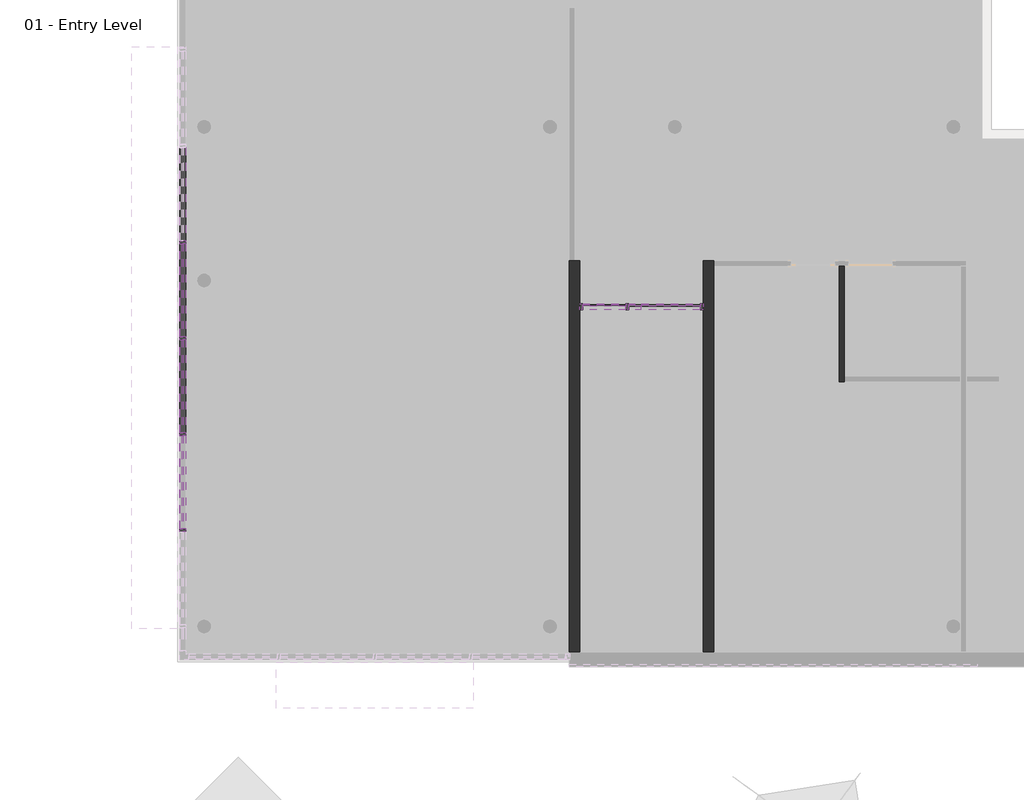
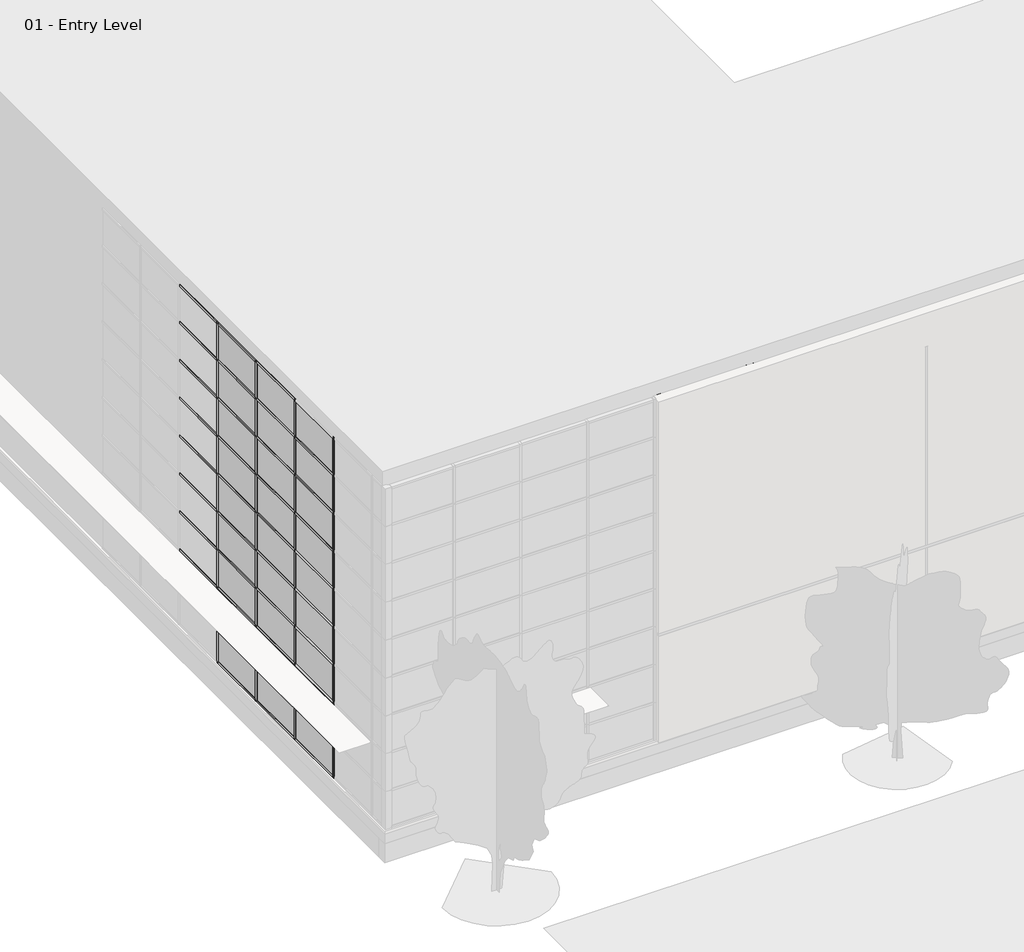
# One storey, part 7 of 35: 87 members, 31 plates, 3 walls, 1 door.
"""IFC4 building model written with IfcOpenShell, lengths in millimetres."""

from ifc_helpers import new_model, si_unit, origin, place, context, project, spatial, faceted_brep, transform, mapped, element, save
from components import curtain_wall_sgl_glass_curtain_wall_sgl_glass_c2d4b377, member_2b49869a, member_391b434c, member_9e90ae50, member_6186cc23, member_5d67b9fc, member_c327c56d, member_a50b3cda, member_410c6227, member_73c23c35, member_59c53a79, member_c46932f7, member_40e8ea34, member_f5b3432e, member_5f93677e, member_63d49946, system_panel_glazed_1b9d6098, system_panel_glazed_70da479d, system_panel_glazed_8dc8626f, system_panel_glazed_8d3e4aee, system_panel_glazed_e3ca75ca, system_panel_glazed_62768381, system_panel_solid_b376696c, system_panel_solid_77e8b053

model = new_model("IFC4")

# Units and contexts
model_context = context("Model", 3, world=origin())
ifc_project = project(units=[si_unit("LENGTHUNIT", "METRE", prefix="MILLI")], contexts=[model_context])

# Site, building, storey
site = spatial("IfcSite", under=ifc_project)
building = spatial("IfcBuilding", under=site)
storey = spatial("IfcBuildingStorey", under=building, Name="01 - Entry Level", Elevation=0.0)

# Door
placement = place(None, origin())
curtain_wall_sgl_glass_curtain_wall_sgl_glass_shape = curtain_wall_sgl_glass_curtain_wall_sgl_glass_c2d4b377(model_context)
element("IfcDoor", 1, ObjectType="Curtain Wall Sgl Glass : Curtain Wall Sgl Glass", at=placement, inside=storey, context=model_context, shape_type="MappedRepresentation", body=[
    mapped(curtain_wall_sgl_glass_curtain_wall_sgl_glass_shape, transform((9097.2957476, 7356.4, 0.0), x_axis=(-1.0, 0.0, 0.0), y_axis=(0.0, -1.0, 0.0), z_axis=(0.0, 0.0, 1.0))),
])

# Members
member_shape = member_2b49869a(model_context)
element("IfcMember", 2, ObjectType="Rectangular Mullion : 2.5\" x 5\" rectangular", at=placement, inside=storey, context=model_context, shape_type="MappedRepresentation", body=[
    mapped(member_shape, transform((178.7207476, 8728.0, 9753.6), x_axis=(0.0, -1.0, 0.0), y_axis=(-1.0, 0.0, 0.0), z_axis=(0.0, 0.0, -1.0))),
])
element("IfcMember", 3, ObjectType="Rectangular Mullion : 2.5\" x 5\" rectangular", at=placement, inside=storey, context=model_context, shape_type="MappedRepresentation", body=[
    mapped(member_shape, transform((178.7207476, 6696.0, 9753.6), x_axis=(0.0, -1.0, 0.0), y_axis=(-1.0, 0.0, 0.0), z_axis=(0.0, 0.0, -1.0))),
])
element("IfcMember", 4, ObjectType="Rectangular Mullion : 2.5\" x 5\" rectangular", at=placement, inside=storey, context=model_context, shape_type="MappedRepresentation", body=[
    mapped(member_shape, transform((178.7207476, 4664.0, 9753.6), x_axis=(0.0, -1.0, 0.0), y_axis=(-1.0, 0.0, 0.0), z_axis=(0.0, 0.0, -1.0))),
])
element("IfcMember", 5, ObjectType="Rectangular Mullion : 2.5\" x 5\" rectangular", at=placement, inside=storey, context=model_context, shape_type="MappedRepresentation", body=[
    mapped(member_shape, transform((178.7207476, 2632.0, 9753.6), x_axis=(0.0, -1.0, 0.0), y_axis=(-1.0, 0.0, 0.0), z_axis=(0.0, 0.0, -1.0))),
])
member_2_shape = member_391b434c(model_context)
element("IfcMember", 6, ObjectType="Rectangular Mullion : 2.5\" x 5\" rectangular", at=placement, inside=storey, context=model_context, shape_type="MappedRepresentation", body=[
    mapped(member_2_shape, transform((178.7207476, 8759.75, 10972.8), x_axis=(0.0, 0.0, 1.0), y_axis=(-1.0, 0.0, 0.0), z_axis=(0.0, -1.0, 0.0))),
])
element("IfcMember", 7, ObjectType="Rectangular Mullion : 2.5\" x 5\" rectangular", at=placement, inside=storey, context=model_context, shape_type="MappedRepresentation", body=[
    mapped(member_2_shape, transform((178.7207476, 6727.75, 10972.8), x_axis=(0.0, 0.0, 1.0), y_axis=(-1.0, 0.0, 0.0), z_axis=(0.0, -1.0, 0.0))),
])
element("IfcMember", 8, ObjectType="Rectangular Mullion : 2.5\" x 5\" rectangular", at=placement, inside=storey, context=model_context, shape_type="MappedRepresentation", body=[
    mapped(member_2_shape, transform((178.7207476, 4695.75, 10972.8), x_axis=(0.0, 0.0, 1.0), y_axis=(-1.0, 0.0, 0.0), z_axis=(0.0, -1.0, 0.0))),
])
element("IfcMember", 9, ObjectType="Rectangular Mullion : 2.5\" x 5\" rectangular", at=placement, inside=storey, context=model_context, shape_type="MappedRepresentation", body=[
    mapped(member_2_shape, transform((178.7207476, 8696.25, 0.0), x_axis=(0.0, 0.0, -1.0), y_axis=(-1.0, 0.0, 0.0), z_axis=(0.0, 1.0, 0.0))),
])
element("IfcMember", 10, ObjectType="Rectangular Mullion : 2.5\" x 5\" rectangular", at=placement, inside=storey, context=model_context, shape_type="MappedRepresentation", body=[
    mapped(member_2_shape, transform((178.7207476, 6664.25, 0.0), x_axis=(0.0, 0.0, -1.0), y_axis=(-1.0, 0.0, 0.0), z_axis=(0.0, 1.0, 0.0))),
])
element("IfcMember", 11, ObjectType="Rectangular Mullion : 2.5\" x 5\" rectangular", at=placement, inside=storey, context=model_context, shape_type="MappedRepresentation", body=[
    mapped(member_2_shape, transform((178.7207476, 4632.25, 0.0), x_axis=(0.0, 0.0, -1.0), y_axis=(-1.0, 0.0, 0.0), z_axis=(0.0, 1.0, 0.0))),
])
member_3_shape = member_9e90ae50(model_context)
element("IfcMember", 12, ObjectType="Rectangular Mullion : 2.5\" x 5\" rectangular", at=placement, inside=storey, context=model_context, shape_type="MappedRepresentation", body=[
    mapped(member_3_shape, transform((178.7207476, 8759.75, 1219.2), x_axis=(0.0, 0.0, 1.0), y_axis=(-1.0, 0.0, 0.0), z_axis=(0.0, -1.0, 0.0))),
])
element("IfcMember", 13, ObjectType="Rectangular Mullion : 2.5\" x 5\" rectangular", at=placement, inside=storey, context=model_context, shape_type="MappedRepresentation", body=[
    mapped(member_3_shape, transform((178.7207476, 6727.75, 1219.2), x_axis=(0.0, 0.0, 1.0), y_axis=(-1.0, 0.0, 0.0), z_axis=(0.0, -1.0, 0.0))),
])
element("IfcMember", 14, ObjectType="Rectangular Mullion : 2.5\" x 5\" rectangular", at=placement, inside=storey, context=model_context, shape_type="MappedRepresentation", body=[
    mapped(member_3_shape, transform((178.7207476, 4695.75, 1219.2), x_axis=(0.0, 0.0, 1.0), y_axis=(-1.0, 0.0, 0.0), z_axis=(0.0, -1.0, 0.0))),
])
element("IfcMember", 15, ObjectType="Rectangular Mullion : 2.5\" x 5\" rectangular", at=placement, inside=storey, context=model_context, shape_type="MappedRepresentation", body=[
    mapped(member_3_shape, transform((178.7207476, 8759.75, 2438.4), x_axis=(0.0, 0.0, 1.0), y_axis=(-1.0, 0.0, 0.0), z_axis=(0.0, -1.0, 0.0))),
])
element("IfcMember", 16, ObjectType="Rectangular Mullion : 2.5\" x 5\" rectangular", at=placement, inside=storey, context=model_context, shape_type="MappedRepresentation", body=[
    mapped(member_3_shape, transform((178.7207476, 6727.75, 2438.4), x_axis=(0.0, 0.0, 1.0), y_axis=(-1.0, 0.0, 0.0), z_axis=(0.0, -1.0, 0.0))),
])
element("IfcMember", 17, ObjectType="Rectangular Mullion : 2.5\" x 5\" rectangular", at=placement, inside=storey, context=model_context, shape_type="MappedRepresentation", body=[
    mapped(member_3_shape, transform((178.7207476, 4695.75, 2438.4), x_axis=(0.0, 0.0, 1.0), y_axis=(-1.0, 0.0, 0.0), z_axis=(0.0, -1.0, 0.0))),
])
element("IfcMember", 18, ObjectType="Rectangular Mullion : 2.5\" x 5\" rectangular", at=placement, inside=storey, context=model_context, shape_type="MappedRepresentation", body=[
    mapped(member_3_shape, transform((178.7207476, 8759.75, 3657.6), x_axis=(0.0, 0.0, 1.0), y_axis=(-1.0, 0.0, 0.0), z_axis=(0.0, -1.0, 0.0))),
])
element("IfcMember", 19, ObjectType="Rectangular Mullion : 2.5\" x 5\" rectangular", at=placement, inside=storey, context=model_context, shape_type="MappedRepresentation", body=[
    mapped(member_3_shape, transform((178.7207476, 6727.75, 3657.6), x_axis=(0.0, 0.0, 1.0), y_axis=(-1.0, 0.0, 0.0), z_axis=(0.0, -1.0, 0.0))),
])
element("IfcMember", 20, ObjectType="Rectangular Mullion : 2.5\" x 5\" rectangular", at=placement, inside=storey, context=model_context, shape_type="MappedRepresentation", body=[
    mapped(member_3_shape, transform((178.7207476, 4695.75, 3657.6), x_axis=(0.0, 0.0, 1.0), y_axis=(-1.0, 0.0, 0.0), z_axis=(0.0, -1.0, 0.0))),
])
element("IfcMember", 21, ObjectType="Rectangular Mullion : 2.5\" x 5\" rectangular", at=placement, inside=storey, context=model_context, shape_type="MappedRepresentation", body=[
    mapped(member_3_shape, transform((178.7207476, 8759.75, 4876.8), x_axis=(0.0, 0.0, 1.0), y_axis=(-1.0, 0.0, 0.0), z_axis=(0.0, -1.0, 0.0))),
])
element("IfcMember", 22, ObjectType="Rectangular Mullion : 2.5\" x 5\" rectangular", at=placement, inside=storey, context=model_context, shape_type="MappedRepresentation", body=[
    mapped(member_3_shape, transform((178.7207476, 6727.75, 4876.8), x_axis=(0.0, 0.0, 1.0), y_axis=(-1.0, 0.0, 0.0), z_axis=(0.0, -1.0, 0.0))),
])
element("IfcMember", 23, ObjectType="Rectangular Mullion : 2.5\" x 5\" rectangular", at=placement, inside=storey, context=model_context, shape_type="MappedRepresentation", body=[
    mapped(member_3_shape, transform((178.7207476, 4695.75, 4876.8), x_axis=(0.0, 0.0, 1.0), y_axis=(-1.0, 0.0, 0.0), z_axis=(0.0, -1.0, 0.0))),
])
element("IfcMember", 24, ObjectType="Rectangular Mullion : 2.5\" x 5\" rectangular", at=placement, inside=storey, context=model_context, shape_type="MappedRepresentation", body=[
    mapped(member_3_shape, transform((178.7207476, 8759.75, 6096.0), x_axis=(0.0, 0.0, 1.0), y_axis=(-1.0, 0.0, 0.0), z_axis=(0.0, -1.0, 0.0))),
])
element("IfcMember", 25, ObjectType="Rectangular Mullion : 2.5\" x 5\" rectangular", at=placement, inside=storey, context=model_context, shape_type="MappedRepresentation", body=[
    mapped(member_3_shape, transform((178.7207476, 6727.75, 6096.0), x_axis=(0.0, 0.0, 1.0), y_axis=(-1.0, 0.0, 0.0), z_axis=(0.0, -1.0, 0.0))),
])
element("IfcMember", 26, ObjectType="Rectangular Mullion : 2.5\" x 5\" rectangular", at=placement, inside=storey, context=model_context, shape_type="MappedRepresentation", body=[
    mapped(member_3_shape, transform((178.7207476, 4695.75, 6096.0), x_axis=(0.0, 0.0, 1.0), y_axis=(-1.0, 0.0, 0.0), z_axis=(0.0, -1.0, 0.0))),
])
element("IfcMember", 27, ObjectType="Rectangular Mullion : 2.5\" x 5\" rectangular", at=placement, inside=storey, context=model_context, shape_type="MappedRepresentation", body=[
    mapped(member_3_shape, transform((178.7207476, 8759.75, 7315.2), x_axis=(0.0, 0.0, 1.0), y_axis=(-1.0, 0.0, 0.0), z_axis=(0.0, -1.0, 0.0))),
])
element("IfcMember", 28, ObjectType="Rectangular Mullion : 2.5\" x 5\" rectangular", at=placement, inside=storey, context=model_context, shape_type="MappedRepresentation", body=[
    mapped(member_3_shape, transform((178.7207476, 6727.75, 7315.2), x_axis=(0.0, 0.0, 1.0), y_axis=(-1.0, 0.0, 0.0), z_axis=(0.0, -1.0, 0.0))),
])
element("IfcMember", 29, ObjectType="Rectangular Mullion : 2.5\" x 5\" rectangular", at=placement, inside=storey, context=model_context, shape_type="MappedRepresentation", body=[
    mapped(member_3_shape, transform((178.7207476, 4695.75, 7315.2), x_axis=(0.0, 0.0, 1.0), y_axis=(-1.0, 0.0, 0.0), z_axis=(0.0, -1.0, 0.0))),
])
element("IfcMember", 30, ObjectType="Rectangular Mullion : 2.5\" x 5\" rectangular", at=placement, inside=storey, context=model_context, shape_type="MappedRepresentation", body=[
    mapped(member_3_shape, transform((178.7207476, 2663.75, 7315.2), x_axis=(0.0, 0.0, 1.0), y_axis=(-1.0, 0.0, 0.0), z_axis=(0.0, -1.0, 0.0))),
])
element("IfcMember", 31, ObjectType="Rectangular Mullion : 2.5\" x 5\" rectangular", at=placement, inside=storey, context=model_context, shape_type="MappedRepresentation", body=[
    mapped(member_3_shape, transform((178.7207476, 8759.75, 8534.4), x_axis=(0.0, 0.0, 1.0), y_axis=(-1.0, 0.0, 0.0), z_axis=(0.0, -1.0, 0.0))),
])
element("IfcMember", 32, ObjectType="Rectangular Mullion : 2.5\" x 5\" rectangular", at=placement, inside=storey, context=model_context, shape_type="MappedRepresentation", body=[
    mapped(member_3_shape, transform((178.7207476, 6727.75, 8534.4), x_axis=(0.0, 0.0, 1.0), y_axis=(-1.0, 0.0, 0.0), z_axis=(0.0, -1.0, 0.0))),
])
element("IfcMember", 33, ObjectType="Rectangular Mullion : 2.5\" x 5\" rectangular", at=placement, inside=storey, context=model_context, shape_type="MappedRepresentation", body=[
    mapped(member_3_shape, transform((178.7207476, 4695.75, 8534.4), x_axis=(0.0, 0.0, 1.0), y_axis=(-1.0, 0.0, 0.0), z_axis=(0.0, -1.0, 0.0))),
])
element("IfcMember", 34, ObjectType="Rectangular Mullion : 2.5\" x 5\" rectangular", at=placement, inside=storey, context=model_context, shape_type="MappedRepresentation", body=[
    mapped(member_3_shape, transform((178.7207476, 2663.75, 8534.4), x_axis=(0.0, 0.0, 1.0), y_axis=(-1.0, 0.0, 0.0), z_axis=(0.0, -1.0, 0.0))),
])
element("IfcMember", 35, ObjectType="Rectangular Mullion : 2.5\" x 5\" rectangular", at=placement, inside=storey, context=model_context, shape_type="MappedRepresentation", body=[
    mapped(member_3_shape, transform((178.7207476, 8759.75, 9753.6), x_axis=(0.0, 0.0, 1.0), y_axis=(-1.0, 0.0, 0.0), z_axis=(0.0, -1.0, 0.0))),
])
element("IfcMember", 36, ObjectType="Rectangular Mullion : 2.5\" x 5\" rectangular", at=placement, inside=storey, context=model_context, shape_type="MappedRepresentation", body=[
    mapped(member_3_shape, transform((178.7207476, 6727.75, 9753.6), x_axis=(0.0, 0.0, 1.0), y_axis=(-1.0, 0.0, 0.0), z_axis=(0.0, -1.0, 0.0))),
])
element("IfcMember", 37, ObjectType="Rectangular Mullion : 2.5\" x 5\" rectangular", at=placement, inside=storey, context=model_context, shape_type="MappedRepresentation", body=[
    mapped(member_3_shape, transform((178.7207476, 4695.75, 9753.6), x_axis=(0.0, 0.0, 1.0), y_axis=(-1.0, 0.0, 0.0), z_axis=(0.0, -1.0, 0.0))),
])
element("IfcMember", 38, ObjectType="Rectangular Mullion : 2.5\" x 5\" rectangular", at=placement, inside=storey, context=model_context, shape_type="MappedRepresentation", body=[
    mapped(member_3_shape, transform((178.7207476, 2663.75, 9753.6), x_axis=(0.0, 0.0, 1.0), y_axis=(-1.0, 0.0, 0.0), z_axis=(0.0, -1.0, 0.0))),
])
element("IfcMember", 39, ObjectType="Rectangular Mullion : 2.5\" x 5\" rectangular", at=placement, inside=storey, context=model_context, shape_type="MappedRepresentation", body=[
    mapped(member_shape, transform((178.7207476, 8728.0, 0.0), x_axis=(0.0, -1.0, 0.0), y_axis=(-1.0, 0.0, 0.0), z_axis=(0.0, 0.0, -1.0))),
])
element("IfcMember", 40, ObjectType="Rectangular Mullion : 2.5\" x 5\" rectangular", at=placement, inside=storey, context=model_context, shape_type="MappedRepresentation", body=[
    mapped(member_shape, transform((178.7207476, 6696.0, 0.0), x_axis=(0.0, -1.0, 0.0), y_axis=(-1.0, 0.0, 0.0), z_axis=(0.0, 0.0, -1.0))),
])
element("IfcMember", 41, ObjectType="Rectangular Mullion : 2.5\" x 5\" rectangular", at=placement, inside=storey, context=model_context, shape_type="MappedRepresentation", body=[
    mapped(member_shape, transform((178.7207476, 4664.0, 0.0), x_axis=(0.0, -1.0, 0.0), y_axis=(-1.0, 0.0, 0.0), z_axis=(0.0, 0.0, -1.0))),
])
element("IfcMember", 42, ObjectType="Rectangular Mullion : 2.5\" x 5\" rectangular", at=placement, inside=storey, context=model_context, shape_type="MappedRepresentation", body=[
    mapped(member_shape, transform((178.7207476, 2632.0, 0.0), x_axis=(0.0, -1.0, 0.0), y_axis=(-1.0, 0.0, 0.0), z_axis=(0.0, 0.0, -1.0))),
])
element("IfcMember", 43, ObjectType="Rectangular Mullion : 2.5\" x 5\" rectangular", at=placement, inside=storey, context=model_context, shape_type="MappedRepresentation", body=[
    mapped(member_shape, transform((178.7207476, 8728.0, 1219.2), x_axis=(0.0, -1.0, 0.0), y_axis=(-1.0, 0.0, 0.0), z_axis=(0.0, 0.0, -1.0))),
])
element("IfcMember", 44, ObjectType="Rectangular Mullion : 2.5\" x 5\" rectangular", at=placement, inside=storey, context=model_context, shape_type="MappedRepresentation", body=[
    mapped(member_shape, transform((178.7207476, 6696.0, 1219.2), x_axis=(0.0, -1.0, 0.0), y_axis=(-1.0, 0.0, 0.0), z_axis=(0.0, 0.0, -1.0))),
])
element("IfcMember", 45, ObjectType="Rectangular Mullion : 2.5\" x 5\" rectangular", at=placement, inside=storey, context=model_context, shape_type="MappedRepresentation", body=[
    mapped(member_shape, transform((178.7207476, 4664.0, 1219.2), x_axis=(0.0, -1.0, 0.0), y_axis=(-1.0, 0.0, 0.0), z_axis=(0.0, 0.0, -1.0))),
])
element("IfcMember", 46, ObjectType="Rectangular Mullion : 2.5\" x 5\" rectangular", at=placement, inside=storey, context=model_context, shape_type="MappedRepresentation", body=[
    mapped(member_shape, transform((178.7207476, 2632.0, 1219.2), x_axis=(0.0, -1.0, 0.0), y_axis=(-1.0, 0.0, 0.0), z_axis=(0.0, 0.0, -1.0))),
])
element("IfcMember", 47, ObjectType="Rectangular Mullion : 2.5\" x 5\" rectangular", at=placement, inside=storey, context=model_context, shape_type="MappedRepresentation", body=[
    mapped(member_shape, transform((178.7207476, 8728.0, 2438.4), x_axis=(0.0, -1.0, 0.0), y_axis=(-1.0, 0.0, 0.0), z_axis=(0.0, 0.0, -1.0))),
])
element("IfcMember", 48, ObjectType="Rectangular Mullion : 2.5\" x 5\" rectangular", at=placement, inside=storey, context=model_context, shape_type="MappedRepresentation", body=[
    mapped(member_shape, transform((178.7207476, 6696.0, 2438.4), x_axis=(0.0, -1.0, 0.0), y_axis=(-1.0, 0.0, 0.0), z_axis=(0.0, 0.0, -1.0))),
])
element("IfcMember", 49, ObjectType="Rectangular Mullion : 2.5\" x 5\" rectangular", at=placement, inside=storey, context=model_context, shape_type="MappedRepresentation", body=[
    mapped(member_shape, transform((178.7207476, 4664.0, 2438.4), x_axis=(0.0, -1.0, 0.0), y_axis=(-1.0, 0.0, 0.0), z_axis=(0.0, 0.0, -1.0))),
])
element("IfcMember", 50, ObjectType="Rectangular Mullion : 2.5\" x 5\" rectangular", at=placement, inside=storey, context=model_context, shape_type="MappedRepresentation", body=[
    mapped(member_shape, transform((178.7207476, 2632.0, 2438.4), x_axis=(0.0, -1.0, 0.0), y_axis=(-1.0, 0.0, 0.0), z_axis=(0.0, 0.0, -1.0))),
])
element("IfcMember", 51, ObjectType="Rectangular Mullion : 2.5\" x 5\" rectangular", at=placement, inside=storey, context=model_context, shape_type="MappedRepresentation", body=[
    mapped(member_shape, transform((178.7207476, 8728.0, 3657.6), x_axis=(0.0, -1.0, 0.0), y_axis=(-1.0, 0.0, 0.0), z_axis=(0.0, 0.0, -1.0))),
])
element("IfcMember", 52, ObjectType="Rectangular Mullion : 2.5\" x 5\" rectangular", at=placement, inside=storey, context=model_context, shape_type="MappedRepresentation", body=[
    mapped(member_shape, transform((178.7207476, 6696.0, 3657.6), x_axis=(0.0, -1.0, 0.0), y_axis=(-1.0, 0.0, 0.0), z_axis=(0.0, 0.0, -1.0))),
])
element("IfcMember", 53, ObjectType="Rectangular Mullion : 2.5\" x 5\" rectangular", at=placement, inside=storey, context=model_context, shape_type="MappedRepresentation", body=[
    mapped(member_shape, transform((178.7207476, 4664.0, 3657.6), x_axis=(0.0, -1.0, 0.0), y_axis=(-1.0, 0.0, 0.0), z_axis=(0.0, 0.0, -1.0))),
])
element("IfcMember", 54, ObjectType="Rectangular Mullion : 2.5\" x 5\" rectangular", at=placement, inside=storey, context=model_context, shape_type="MappedRepresentation", body=[
    mapped(member_shape, transform((178.7207476, 2632.0, 3657.6), x_axis=(0.0, -1.0, 0.0), y_axis=(-1.0, 0.0, 0.0), z_axis=(0.0, 0.0, -1.0))),
])
element("IfcMember", 55, ObjectType="Rectangular Mullion : 2.5\" x 5\" rectangular", at=placement, inside=storey, context=model_context, shape_type="MappedRepresentation", body=[
    mapped(member_shape, transform((178.7207476, 8728.0, 4876.8), x_axis=(0.0, -1.0, 0.0), y_axis=(-1.0, 0.0, 0.0), z_axis=(0.0, 0.0, -1.0))),
])
element("IfcMember", 56, ObjectType="Rectangular Mullion : 2.5\" x 5\" rectangular", at=placement, inside=storey, context=model_context, shape_type="MappedRepresentation", body=[
    mapped(member_shape, transform((178.7207476, 6696.0, 4876.8), x_axis=(0.0, -1.0, 0.0), y_axis=(-1.0, 0.0, 0.0), z_axis=(0.0, 0.0, -1.0))),
])
element("IfcMember", 57, ObjectType="Rectangular Mullion : 2.5\" x 5\" rectangular", at=placement, inside=storey, context=model_context, shape_type="MappedRepresentation", body=[
    mapped(member_shape, transform((178.7207476, 4664.0, 4876.8), x_axis=(0.0, -1.0, 0.0), y_axis=(-1.0, 0.0, 0.0), z_axis=(0.0, 0.0, -1.0))),
])
element("IfcMember", 58, ObjectType="Rectangular Mullion : 2.5\" x 5\" rectangular", at=placement, inside=storey, context=model_context, shape_type="MappedRepresentation", body=[
    mapped(member_shape, transform((178.7207476, 2632.0, 4876.8), x_axis=(0.0, -1.0, 0.0), y_axis=(-1.0, 0.0, 0.0), z_axis=(0.0, 0.0, -1.0))),
])
element("IfcMember", 59, ObjectType="Rectangular Mullion : 2.5\" x 5\" rectangular", at=placement, inside=storey, context=model_context, shape_type="MappedRepresentation", body=[
    mapped(member_shape, transform((178.7207476, 8728.0, 6096.0), x_axis=(0.0, -1.0, 0.0), y_axis=(-1.0, 0.0, 0.0), z_axis=(0.0, 0.0, -1.0))),
])
element("IfcMember", 60, ObjectType="Rectangular Mullion : 2.5\" x 5\" rectangular", at=placement, inside=storey, context=model_context, shape_type="MappedRepresentation", body=[
    mapped(member_shape, transform((178.7207476, 6696.0, 6096.0), x_axis=(0.0, -1.0, 0.0), y_axis=(-1.0, 0.0, 0.0), z_axis=(0.0, 0.0, -1.0))),
])
element("IfcMember", 61, ObjectType="Rectangular Mullion : 2.5\" x 5\" rectangular", at=placement, inside=storey, context=model_context, shape_type="MappedRepresentation", body=[
    mapped(member_shape, transform((178.7207476, 4664.0, 6096.0), x_axis=(0.0, -1.0, 0.0), y_axis=(-1.0, 0.0, 0.0), z_axis=(0.0, 0.0, -1.0))),
])
element("IfcMember", 62, ObjectType="Rectangular Mullion : 2.5\" x 5\" rectangular", at=placement, inside=storey, context=model_context, shape_type="MappedRepresentation", body=[
    mapped(member_shape, transform((178.7207476, 2632.0, 6096.0), x_axis=(0.0, -1.0, 0.0), y_axis=(-1.0, 0.0, 0.0), z_axis=(0.0, 0.0, -1.0))),
])
element("IfcMember", 63, ObjectType="Rectangular Mullion : 2.5\" x 5\" rectangular", at=placement, inside=storey, context=model_context, shape_type="MappedRepresentation", body=[
    mapped(member_shape, transform((178.7207476, 8728.0, 7315.2), x_axis=(0.0, -1.0, 0.0), y_axis=(-1.0, 0.0, 0.0), z_axis=(0.0, 0.0, -1.0))),
])
element("IfcMember", 64, ObjectType="Rectangular Mullion : 2.5\" x 5\" rectangular", at=placement, inside=storey, context=model_context, shape_type="MappedRepresentation", body=[
    mapped(member_shape, transform((178.7207476, 6696.0, 7315.2), x_axis=(0.0, -1.0, 0.0), y_axis=(-1.0, 0.0, 0.0), z_axis=(0.0, 0.0, -1.0))),
])
element("IfcMember", 65, ObjectType="Rectangular Mullion : 2.5\" x 5\" rectangular", at=placement, inside=storey, context=model_context, shape_type="MappedRepresentation", body=[
    mapped(member_shape, transform((178.7207476, 4664.0, 7315.2), x_axis=(0.0, -1.0, 0.0), y_axis=(-1.0, 0.0, 0.0), z_axis=(0.0, 0.0, -1.0))),
])
element("IfcMember", 66, ObjectType="Rectangular Mullion : 2.5\" x 5\" rectangular", at=placement, inside=storey, context=model_context, shape_type="MappedRepresentation", body=[
    mapped(member_shape, transform((178.7207476, 2632.0, 7315.2), x_axis=(0.0, -1.0, 0.0), y_axis=(-1.0, 0.0, 0.0), z_axis=(0.0, 0.0, -1.0))),
])
element("IfcMember", 67, ObjectType="Rectangular Mullion : 2.5\" x 5\" rectangular", at=placement, inside=storey, context=model_context, shape_type="MappedRepresentation", body=[
    mapped(member_shape, transform((178.7207476, 8728.0, 8534.4), x_axis=(0.0, -1.0, 0.0), y_axis=(-1.0, 0.0, 0.0), z_axis=(0.0, 0.0, -1.0))),
])
element("IfcMember", 68, ObjectType="Rectangular Mullion : 2.5\" x 5\" rectangular", at=placement, inside=storey, context=model_context, shape_type="MappedRepresentation", body=[
    mapped(member_shape, transform((178.7207476, 6696.0, 8534.4), x_axis=(0.0, -1.0, 0.0), y_axis=(-1.0, 0.0, 0.0), z_axis=(0.0, 0.0, -1.0))),
])
element("IfcMember", 69, ObjectType="Rectangular Mullion : 2.5\" x 5\" rectangular", at=placement, inside=storey, context=model_context, shape_type="MappedRepresentation", body=[
    mapped(member_shape, transform((178.7207476, 4664.0, 8534.4), x_axis=(0.0, -1.0, 0.0), y_axis=(-1.0, 0.0, 0.0), z_axis=(0.0, 0.0, -1.0))),
])
element("IfcMember", 70, ObjectType="Rectangular Mullion : 2.5\" x 5\" rectangular", at=placement, inside=storey, context=model_context, shape_type="MappedRepresentation", body=[
    mapped(member_shape, transform((178.7207476, 2632.0, 8534.4), x_axis=(0.0, -1.0, 0.0), y_axis=(-1.0, 0.0, 0.0), z_axis=(0.0, 0.0, -1.0))),
])
member_4_shape = member_6186cc23(model_context)
element("IfcMember", 71, ObjectType="Rectangular Mullion : 2.5\" x 5\" rectangular", at=placement, inside=storey, context=model_context, shape_type="MappedRepresentation", body=[
    mapped(member_4_shape, transform((9586.2457476, 7356.4, 0.0), x_axis=(-1.0, 0.0, 0.0), y_axis=(0.0, 1.0, 0.0), z_axis=(0.0, 0.0, -1.0))),
])
member_5_shape = member_5d67b9fc(model_context)
element("IfcMember", 72, ObjectType="Rectangular Mullion : 2.5\" x 5\" rectangular", at=placement, inside=storey, context=model_context, shape_type="MappedRepresentation", body=[
    mapped(member_5_shape, transform((9586.2457476, 7356.4, 2165.35), x_axis=(-1.0, 0.0, 0.0), y_axis=(0.0, 1.0, 0.0), z_axis=(0.0, 0.0, -1.0))),
])
member_6_shape = member_c327c56d(model_context)
element("IfcMember", 73, ObjectType="Rectangular Mullion : 2.5\" x 5\" rectangular", at=placement, inside=storey, context=model_context, shape_type="MappedRepresentation", body=[
    mapped(member_6_shape, transform((11194.3832476, 7356.4, 2438.4), x_axis=(1.0, 0.0, 0.0), y_axis=(0.0, 1.0, 0.0), z_axis=(0.0, 0.0, 1.0))),
])
member_7_shape = member_a50b3cda(model_context)
element("IfcMember", 74, ObjectType="Rectangular Mullion : 2.5\" x 5\" rectangular", at=placement, inside=storey, context=model_context, shape_type="MappedRepresentation", body=[
    mapped(member_7_shape, transform((11194.3832476, 7356.4, 2165.35), x_axis=(1.0, 0.0, 0.0), y_axis=(0.0, 1.0, 0.0), z_axis=(0.0, 0.0, 1.0))),
])
member_8_shape = member_410c6227(model_context)
element("IfcMember", 75, ObjectType="Rectangular Mullion : 2.5\" x 5\" rectangular", at=placement, inside=storey, context=model_context, shape_type="MappedRepresentation", body=[
    mapped(member_8_shape, transform((8640.0957476, 7356.4, 2438.4), x_axis=(0.0, 0.0, 1.0), y_axis=(0.0, 1.0, 0.0), z_axis=(-1.0, 0.0, 0.0))),
])
element("IfcMember", 76, ObjectType="Rectangular Mullion : 2.5\" x 5\" rectangular", at=placement, inside=storey, context=model_context, shape_type="MappedRepresentation", body=[
    mapped(member_8_shape, transform((8640.0957476, 7356.4, 2165.35), x_axis=(0.0, 0.0, 1.0), y_axis=(0.0, 1.0, 0.0), z_axis=(-1.0, 0.0, 0.0))),
])
member_9_shape = member_73c23c35(model_context)
element("IfcMember", 77, ObjectType="Rectangular Mullion : 2.5\" x 5\" rectangular", at=placement, inside=storey, context=model_context, shape_type="MappedRepresentation", body=[
    mapped(member_9_shape, transform((8640.0957476, 7356.4, 3397.25), x_axis=(0.0, 0.0, 1.0), y_axis=(0.0, 1.0, 0.0), z_axis=(-1.0, 0.0, 0.0))),
])
element("IfcMember", 78, ObjectType="Rectangular Mullion : 2.5\" x 5\" rectangular", at=placement, inside=storey, context=model_context, shape_type="MappedRepresentation", body=[
    mapped(member_7_shape, transform((8576.5957476, 7356.4, 0.0), x_axis=(-1.0, 0.0, 0.0), y_axis=(0.0, 1.0, 0.0), z_axis=(0.0, 0.0, -1.0))),
])
element("IfcMember", 79, ObjectType="Rectangular Mullion : 2.5\" x 5\" rectangular", at=placement, inside=storey, context=model_context, shape_type="MappedRepresentation", body=[
    mapped(member_6_shape, transform((8576.5957476, 7356.4, 2165.35), x_axis=(-1.0, 0.0, 0.0), y_axis=(0.0, 1.0, 0.0), z_axis=(0.0, 0.0, -1.0))),
])
member_10_shape = member_59c53a79(model_context)
element("IfcMember", 80, ObjectType="Rectangular Mullion : 2.5\" x 5\" rectangular", at=placement, inside=storey, context=model_context, shape_type="MappedRepresentation", body=[
    mapped(member_10_shape, transform((11130.8832476, 7356.4, 0.0), x_axis=(0.0, 0.0, -1.0), y_axis=(0.0, 1.0, 0.0), z_axis=(1.0, 0.0, 0.0))),
])
member_11_shape = member_c46932f7(model_context)
element("IfcMember", 81, ObjectType="Rectangular Mullion : 2.5\" x 5\" rectangular", at=placement, inside=storey, context=model_context, shape_type="MappedRepresentation", body=[
    mapped(member_11_shape, transform((9885.4894976, 7356.4, 2438.4), x_axis=(0.0, 0.0, 1.0), y_axis=(0.0, 1.0, 0.0), z_axis=(-1.0, 0.0, 0.0))),
])
element("IfcMember", 82, ObjectType="Rectangular Mullion : 2.5\" x 5\" rectangular", at=placement, inside=storey, context=model_context, shape_type="MappedRepresentation", body=[
    mapped(member_10_shape, transform((9885.4894976, 7356.4, 3397.25), x_axis=(0.0, 0.0, 1.0), y_axis=(0.0, 1.0, 0.0), z_axis=(-1.0, 0.0, 0.0))),
])
member_12_shape = member_40e8ea34(model_context)
element("IfcMember", 83, ObjectType="Rectangular Mullion : 2.5\" x 5\" rectangular", at=placement, inside=storey, context=model_context, shape_type="MappedRepresentation", body=[
    mapped(member_12_shape, transform((9617.9957476, 7356.4, 2438.4), x_axis=(0.0, 0.0, 1.0), y_axis=(0.0, 1.0, 0.0), z_axis=(-1.0, 0.0, 0.0))),
])
member_13_shape = member_f5b3432e(model_context)
element("IfcMember", 84, ObjectType="Rectangular Mullion : 2.5\" x 5\" rectangular", at=placement, inside=storey, context=model_context, shape_type="MappedRepresentation", body=[
    mapped(member_13_shape, transform((9617.9957476, 7356.4, 3397.25), x_axis=(0.0, 0.0, 1.0), y_axis=(0.0, 1.0, 0.0), z_axis=(-1.0, 0.0, 0.0))),
])
element("IfcMember", 85, ObjectType="Rectangular Mullion : 2.5\" x 5\" rectangular", at=placement, inside=storey, context=model_context, shape_type="MappedRepresentation", body=[
    mapped(member_13_shape, transform((9885.4894976, 7356.4, 0.0), x_axis=(0.0, 0.0, -1.0), y_axis=(0.0, 1.0, 0.0), z_axis=(1.0, 0.0, 0.0))),
])
member_14_shape = member_5f93677e(model_context)
element("IfcMember", 86, ObjectType="Rectangular Mullion : 2.5\" x 5\" rectangular", at=placement, inside=storey, context=model_context, shape_type="MappedRepresentation", body=[
    mapped(member_14_shape, transform((11194.3832476, 7356.4, 3397.25), x_axis=(1.0, 0.0, 0.0), y_axis=(0.0, 1.0, 0.0), z_axis=(0.0, 0.0, 1.0))),
])
element("IfcMember", 87, ObjectType="Rectangular Mullion : 2.5\" x 5\" rectangular", at=placement, inside=storey, context=model_context, shape_type="MappedRepresentation", body=[
    mapped(member_14_shape, transform((8576.5957476, 7356.4, 2438.4), x_axis=(-1.0, 0.0, 0.0), y_axis=(0.0, 1.0, 0.0), z_axis=(0.0, 0.0, -1.0))),
])
member_15_shape = member_63d49946(model_context)
element("IfcMember", 88, ObjectType="Rectangular Mullion : 2.5\" x 5\" rectangular", at=placement, inside=storey, context=model_context, shape_type="MappedRepresentation", body=[
    mapped(member_15_shape, transform((9586.2457476, 7356.4, 2438.4), x_axis=(-1.0, 0.0, 0.0), y_axis=(0.0, 1.0, 0.0), z_axis=(0.0, 0.0, -1.0))),
])

# Plates
system_panel_glazed_shape = system_panel_glazed_1b9d6098(model_context)
element("IfcPlate", 89, ObjectType="System Panel : Glazed", at=placement, inside=storey, context=model_context, shape_type="MappedRepresentation", body=[
    mapped(system_panel_glazed_shape, transform((178.7207476, 7712.0, 63.5), x_axis=(0.0, -1.0, 0.0), y_axis=(1.0, 0.0, 0.0), z_axis=(0.0, 0.0, 1.0))),
])
element("IfcPlate", 90, ObjectType="System Panel : Glazed", at=placement, inside=storey, context=model_context, shape_type="MappedRepresentation", body=[
    mapped(system_panel_glazed_shape, transform((178.7207476, 5680.0, 63.5), x_axis=(0.0, -1.0, 0.0), y_axis=(1.0, 0.0, 0.0), z_axis=(0.0, 0.0, 1.0))),
])
element("IfcPlate", 91, ObjectType="System Panel : Glazed", at=placement, inside=storey, context=model_context, shape_type="MappedRepresentation", body=[
    mapped(system_panel_glazed_shape, transform((178.7207476, 3648.0, 63.5), x_axis=(0.0, -1.0, 0.0), y_axis=(1.0, 0.0, 0.0), z_axis=(0.0, 0.0, 1.0))),
])
system_panel_glazed_2_shape = system_panel_glazed_70da479d(model_context)
element("IfcPlate", 92, ObjectType="System Panel : Glazed", at=placement, inside=storey, context=model_context, shape_type="MappedRepresentation", body=[
    mapped(system_panel_glazed_2_shape, transform((178.7207476, 7712.0, 1250.95), x_axis=(0.0, -1.0, 0.0), y_axis=(1.0, 0.0, 0.0), z_axis=(0.0, 0.0, 1.0))),
])
element("IfcPlate", 93, ObjectType="System Panel : Glazed", at=placement, inside=storey, context=model_context, shape_type="MappedRepresentation", body=[
    mapped(system_panel_glazed_2_shape, transform((178.7207476, 5680.0, 1250.95), x_axis=(0.0, -1.0, 0.0), y_axis=(1.0, 0.0, 0.0), z_axis=(0.0, 0.0, 1.0))),
])
element("IfcPlate", 94, ObjectType="System Panel : Glazed", at=placement, inside=storey, context=model_context, shape_type="MappedRepresentation", body=[
    mapped(system_panel_glazed_2_shape, transform((178.7207476, 3648.0, 1250.95), x_axis=(0.0, -1.0, 0.0), y_axis=(1.0, 0.0, 0.0), z_axis=(0.0, 0.0, 1.0))),
])
element("IfcPlate", 95, ObjectType="System Panel : Glazed", at=placement, inside=storey, context=model_context, shape_type="MappedRepresentation", body=[
    mapped(system_panel_glazed_2_shape, transform((178.7207476, 7712.0, 3689.35), x_axis=(0.0, -1.0, 0.0), y_axis=(1.0, 0.0, 0.0), z_axis=(0.0, 0.0, 1.0))),
])
element("IfcPlate", 96, ObjectType="System Panel : Glazed", at=placement, inside=storey, context=model_context, shape_type="MappedRepresentation", body=[
    mapped(system_panel_glazed_2_shape, transform((178.7207476, 5680.0, 3689.35), x_axis=(0.0, -1.0, 0.0), y_axis=(1.0, 0.0, 0.0), z_axis=(0.0, 0.0, 1.0))),
])
element("IfcPlate", 97, ObjectType="System Panel : Glazed", at=placement, inside=storey, context=model_context, shape_type="MappedRepresentation", body=[
    mapped(system_panel_glazed_2_shape, transform((178.7207476, 3648.0, 3689.35), x_axis=(0.0, -1.0, 0.0), y_axis=(1.0, 0.0, 0.0), z_axis=(0.0, 0.0, 1.0))),
])
element("IfcPlate", 98, ObjectType="System Panel : Glazed", at=placement, inside=storey, context=model_context, shape_type="MappedRepresentation", body=[
    mapped(system_panel_glazed_2_shape, transform((178.7207476, 7712.0, 4908.55), x_axis=(0.0, -1.0, 0.0), y_axis=(1.0, 0.0, 0.0), z_axis=(0.0, 0.0, 1.0))),
])
element("IfcPlate", 99, ObjectType="System Panel : Glazed", at=placement, inside=storey, context=model_context, shape_type="MappedRepresentation", body=[
    mapped(system_panel_glazed_2_shape, transform((178.7207476, 5680.0, 4908.55), x_axis=(0.0, -1.0, 0.0), y_axis=(1.0, 0.0, 0.0), z_axis=(0.0, 0.0, 1.0))),
])
element("IfcPlate", 100, ObjectType="System Panel : Glazed", at=placement, inside=storey, context=model_context, shape_type="MappedRepresentation", body=[
    mapped(system_panel_glazed_2_shape, transform((178.7207476, 3648.0, 4908.55), x_axis=(0.0, -1.0, 0.0), y_axis=(1.0, 0.0, 0.0), z_axis=(0.0, 0.0, 1.0))),
])
element("IfcPlate", 101, ObjectType="System Panel : Glazed", at=placement, inside=storey, context=model_context, shape_type="MappedRepresentation", body=[
    mapped(system_panel_glazed_2_shape, transform((178.7207476, 7712.0, 7346.95), x_axis=(0.0, -1.0, 0.0), y_axis=(1.0, 0.0, 0.0), z_axis=(0.0, 0.0, 1.0))),
])
element("IfcPlate", 102, ObjectType="System Panel : Glazed", at=placement, inside=storey, context=model_context, shape_type="MappedRepresentation", body=[
    mapped(system_panel_glazed_2_shape, transform((178.7207476, 5680.0, 7346.95), x_axis=(0.0, -1.0, 0.0), y_axis=(1.0, 0.0, 0.0), z_axis=(0.0, 0.0, 1.0))),
])
element("IfcPlate", 103, ObjectType="System Panel : Glazed", at=placement, inside=storey, context=model_context, shape_type="MappedRepresentation", body=[
    mapped(system_panel_glazed_2_shape, transform((178.7207476, 3648.0, 7346.95), x_axis=(0.0, -1.0, 0.0), y_axis=(1.0, 0.0, 0.0), z_axis=(0.0, 0.0, 1.0))),
])
element("IfcPlate", 104, ObjectType="System Panel : Glazed", at=placement, inside=storey, context=model_context, shape_type="MappedRepresentation", body=[
    mapped(system_panel_glazed_2_shape, transform((178.7207476, 7712.0, 8566.15), x_axis=(0.0, -1.0, 0.0), y_axis=(1.0, 0.0, 0.0), z_axis=(0.0, 0.0, 1.0))),
])
element("IfcPlate", 105, ObjectType="System Panel : Glazed", at=placement, inside=storey, context=model_context, shape_type="MappedRepresentation", body=[
    mapped(system_panel_glazed_2_shape, transform((178.7207476, 5680.0, 8566.15), x_axis=(0.0, -1.0, 0.0), y_axis=(1.0, 0.0, 0.0), z_axis=(0.0, 0.0, 1.0))),
])
element("IfcPlate", 106, ObjectType="System Panel : Glazed", at=placement, inside=storey, context=model_context, shape_type="MappedRepresentation", body=[
    mapped(system_panel_glazed_2_shape, transform((178.7207476, 3648.0, 8566.15), x_axis=(0.0, -1.0, 0.0), y_axis=(1.0, 0.0, 0.0), z_axis=(0.0, 0.0, 1.0))),
])
system_panel_glazed_3_shape = system_panel_glazed_8dc8626f(model_context)
element("IfcPlate", 107, ObjectType="System Panel : Glazed", at=placement, inside=storey, context=model_context, shape_type="MappedRepresentation", body=[
    mapped(system_panel_glazed_3_shape, transform((9097.2957476, 7356.4, 2197.1), x_axis=(-1.0, 0.0, 0.0), y_axis=(0.0, -1.0, 0.0), z_axis=(0.0, 0.0, 1.0))),
])
system_panel_glazed_4_shape = system_panel_glazed_8d3e4aee(model_context)
element("IfcPlate", 108, ObjectType="System Panel : Glazed", at=placement, inside=storey, context=model_context, shape_type="MappedRepresentation", body=[
    mapped(system_panel_glazed_4_shape, transform((10374.4394976, 7356.4, 63.5), x_axis=(-1.0, 0.0, 0.0), y_axis=(0.0, -1.0, 0.0), z_axis=(0.0, 0.0, 1.0))),
])
system_panel_glazed_5_shape = system_panel_glazed_e3ca75ca(model_context)
element("IfcPlate", 109, ObjectType="System Panel : Glazed", at=placement, inside=storey, context=model_context, shape_type="MappedRepresentation", body=[
    mapped(system_panel_glazed_5_shape, transform((9097.2957476, 7356.4, 2470.15), x_axis=(-1.0, 0.0, 0.0), y_axis=(0.0, -1.0, 0.0), z_axis=(0.0, 0.0, 1.0))),
])
system_panel_glazed_6_shape = system_panel_glazed_62768381(model_context)
element("IfcPlate", 110, ObjectType="System Panel : Glazed", at=placement, inside=storey, context=model_context, shape_type="MappedRepresentation", body=[
    mapped(system_panel_glazed_6_shape, transform((10374.4394976, 7356.4, 2470.15), x_axis=(-1.0, 0.0, 0.0), y_axis=(0.0, -1.0, 0.0), z_axis=(0.0, 0.0, 1.0))),
])
system_panel_solid_shape = system_panel_solid_b376696c(model_context)
element("IfcPlate", 111, ObjectType="System Panel : Solid", at=placement, inside=storey, context=model_context, shape_type="MappedRepresentation", body=[
    mapped(system_panel_solid_shape, transform((178.7207476, 7712.0, 9785.35), x_axis=(0.0, -1.0, 0.0), y_axis=(1.0, 0.0, 0.0), z_axis=(0.0, 0.0, 1.0))),
])
element("IfcPlate", 112, ObjectType="System Panel : Solid", at=placement, inside=storey, context=model_context, shape_type="MappedRepresentation", body=[
    mapped(system_panel_solid_shape, transform((178.7207476, 5680.0, 9785.35), x_axis=(0.0, -1.0, 0.0), y_axis=(1.0, 0.0, 0.0), z_axis=(0.0, 0.0, 1.0))),
])
element("IfcPlate", 113, ObjectType="System Panel : Solid", at=placement, inside=storey, context=model_context, shape_type="MappedRepresentation", body=[
    mapped(system_panel_solid_shape, transform((178.7207476, 3648.0, 9785.35), x_axis=(0.0, -1.0, 0.0), y_axis=(1.0, 0.0, 0.0), z_axis=(0.0, 0.0, 1.0))),
])
system_panel_solid_2_shape = system_panel_solid_77e8b053(model_context)
element("IfcPlate", 114, ObjectType="System Panel : Solid", at=placement, inside=storey, context=model_context, shape_type="MappedRepresentation", body=[
    mapped(system_panel_solid_2_shape, transform((178.7207476, 7712.0, 2470.15), x_axis=(0.0, -1.0, 0.0), y_axis=(1.0, 0.0, 0.0), z_axis=(0.0, 0.0, 1.0))),
])
element("IfcPlate", 115, ObjectType="System Panel : Solid", at=placement, inside=storey, context=model_context, shape_type="MappedRepresentation", body=[
    mapped(system_panel_solid_2_shape, transform((178.7207476, 5680.0, 2470.15), x_axis=(0.0, -1.0, 0.0), y_axis=(1.0, 0.0, 0.0), z_axis=(0.0, 0.0, 1.0))),
])
element("IfcPlate", 116, ObjectType="System Panel : Solid", at=placement, inside=storey, context=model_context, shape_type="MappedRepresentation", body=[
    mapped(system_panel_solid_2_shape, transform((178.7207476, 3648.0, 2470.15), x_axis=(0.0, -1.0, 0.0), y_axis=(1.0, 0.0, 0.0), z_axis=(0.0, 0.0, 1.0))),
])
element("IfcPlate", 117, ObjectType="System Panel : Solid", at=placement, inside=storey, context=model_context, shape_type="MappedRepresentation", body=[
    mapped(system_panel_solid_2_shape, transform((178.7207476, 7712.0, 6127.75), x_axis=(0.0, -1.0, 0.0), y_axis=(1.0, 0.0, 0.0), z_axis=(0.0, 0.0, 1.0))),
])
element("IfcPlate", 118, ObjectType="System Panel : Solid", at=placement, inside=storey, context=model_context, shape_type="MappedRepresentation", body=[
    mapped(system_panel_solid_2_shape, transform((178.7207476, 5680.0, 6127.75), x_axis=(0.0, -1.0, 0.0), y_axis=(1.0, 0.0, 0.0), z_axis=(0.0, 0.0, 1.0))),
])
element("IfcPlate", 119, ObjectType="System Panel : Solid", at=placement, inside=storey, context=model_context, shape_type="MappedRepresentation", body=[
    mapped(system_panel_solid_2_shape, transform((178.7207476, 3648.0, 6127.75), x_axis=(0.0, -1.0, 0.0), y_axis=(1.0, 0.0, 0.0), z_axis=(0.0, 0.0, 1.0))),
])

# Walls
element("IfcWall", 120, ObjectType="Stair Core Walls", at=placement, inside=storey, context=model_context, shape_type="Brep", body=[
    faceted_brep([(8357.5207476, 8334.3, 10972.8), (8357.5207476, 8334.3, 7315.2), (8357.5207476, 8334.3, 3397.25), (8357.5207476, 8334.3, 0.0), (8357.5207476, 53.9, 0.0), (8357.5207476, 53.9, 10972.8), (8576.5957476, 8334.3, 0.0), (8576.5957476, 8334.3, 10972.8), (8576.5957476, 53.9, 10972.8), (8576.5957476, 53.9, 0.0), (8471.8207476, 8334.3, 0.0), (8471.8207476, 8334.3, 10972.8)], [[[0, 1, 2, 3, 4, 5]], [[6, 7, 8, 9]], [[4, 3, 10, 6, 9]], [[0, 5, 8, 7, 11]], [[0, 11, 7, 6, 10, 3, 2, 1]], [[5, 4, 9, 8]]]),
])
element("IfcWall", 121, ObjectType="Stair Core Walls", at=placement, inside=storey, context=model_context, shape_type="Brep", body=[
    faceted_brep([(11413.4582476, 53.9, 0.0), (11413.4582476, 8220.0, 0.0), (11413.4582476, 8334.3, 0.0), (11413.4582476, 8334.3, 3397.25), (11413.4582476, 8334.3, 3657.6), (11413.4582476, 8334.3, 7054.85), (11413.4582476, 8334.3, 7315.2), (11413.4582476, 8334.3, 10972.8), (11413.4582476, 8220.0, 10972.8), (11413.4582476, 53.9, 10972.8), (11194.3832476, 53.9, 0.0), (11194.3832476, 53.9, 10972.8), (11194.3832476, 8334.3, 10972.8), (11194.3832476, 8334.3, 0.0)], [[[0, 1, 2, 3, 4, 5, 6, 7, 8, 9]], [[10, 11, 12, 13]], [[2, 1, 0, 10, 13]], [[9, 8, 7, 12, 11]], [[2, 13, 12, 7, 6, 5, 4, 3]], [[0, 9, 11, 10]]]),
])
element("IfcWall", 122, ObjectType="Typ. Partition Wall", at=placement, inside=storey, context=model_context, shape_type="Brep", body=[
    faceted_brep([(14180.4707476, 5775.25, 0.0), (14180.4707476, 5889.55, 0.0), (14180.4707476, 8220.0, 0.0), (14180.4707476, 8220.0, 3397.25), (14180.4707476, 5889.55, 3397.25), (14180.4707476, 5775.25, 3397.25), (14066.1707476, 5775.25, 0.0), (14066.1707476, 5775.25, 3397.25), (14066.1707476, 8220.0, 3397.25), (14066.1707476, 8220.0, 0.0)], [[[0, 1, 2, 3, 4, 5]], [[6, 7, 8, 9]], [[2, 1, 0, 6, 9]], [[0, 5, 7, 6]], [[3, 2, 9, 8]], [[5, 4, 3, 8, 7]]]),
])

save(model, "model.ifc")
